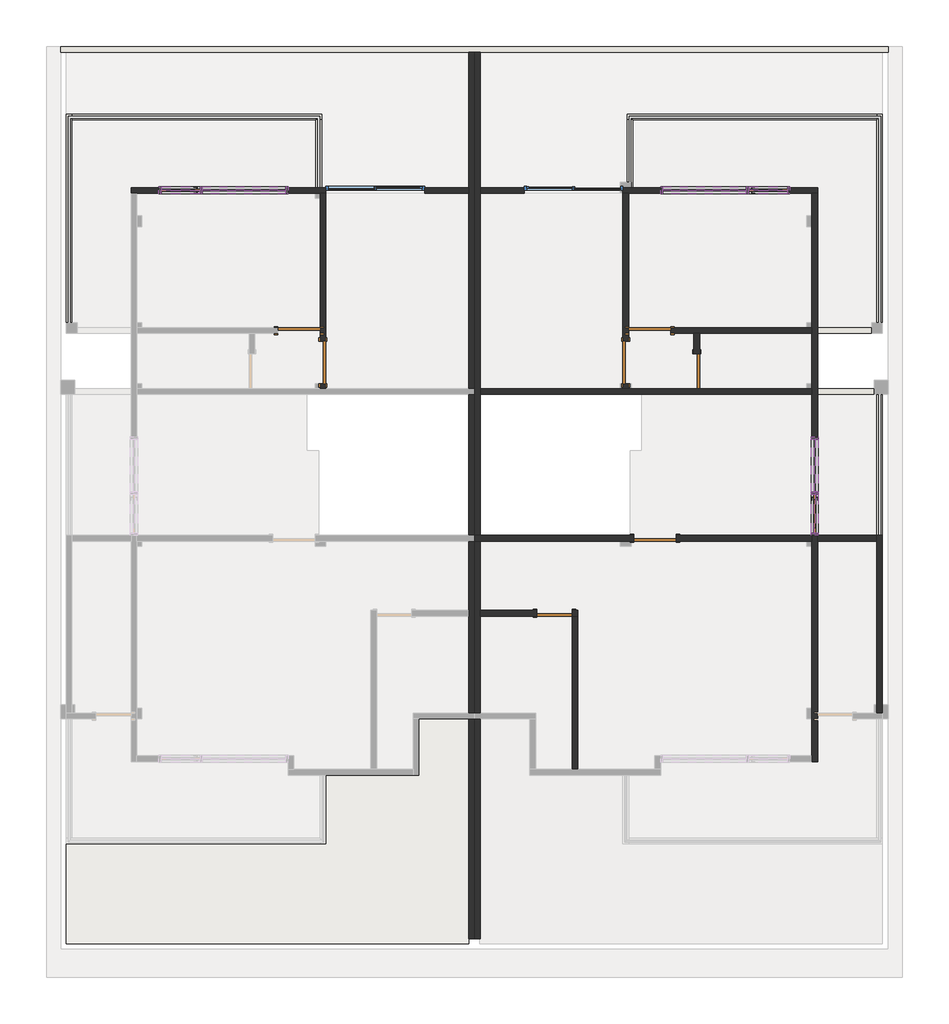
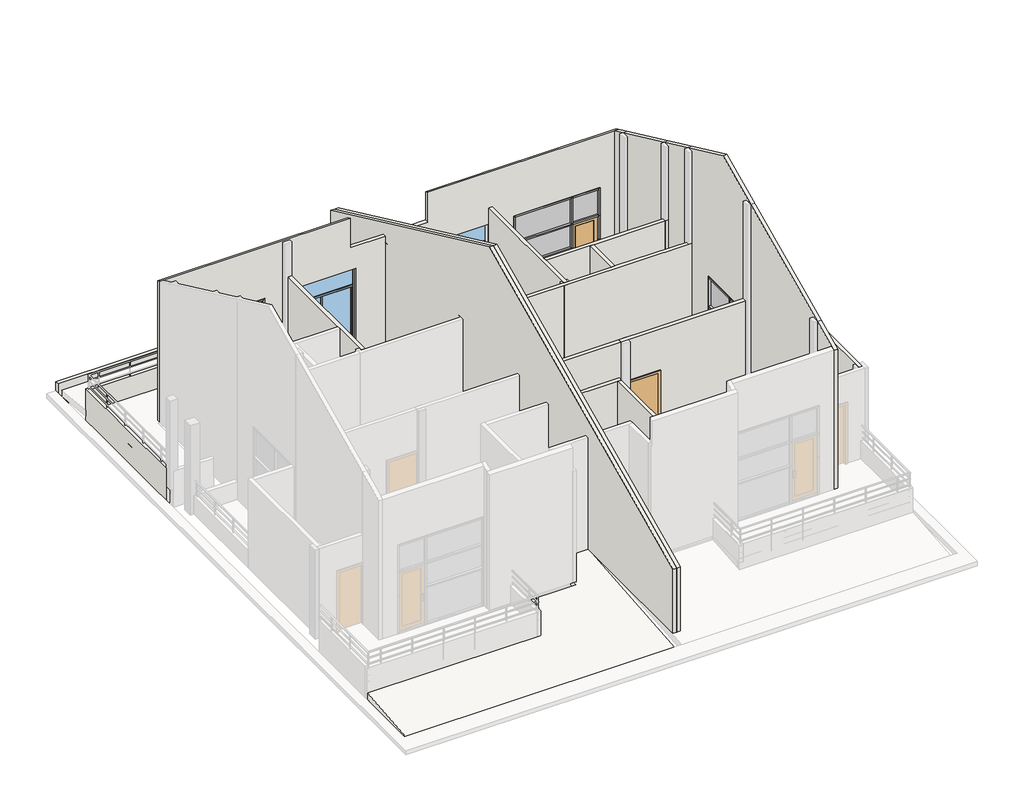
# One storey, part 2 of 6: 44 members, 25 walls, 11 plates, 10 doors, 2 windows, 1 roof.
"""IFC4 building model written with IfcOpenShell, lengths in millimetres."""

from ifc_helpers import new_model, si_unit, frame, origin, place, context, project, spatial, polyline, outline, extrude, faceted_brep, transform, mapped, element, save
from components import m1_9b42acbb, m1_203bd3fe, m3_b9aba31e, m3_11f5f102, mlc4_63d6f031, mlc4_8405c642, mlc5_12f04068, member_50_x_150mm_d1afb885, member_50_x_150mm_4883e7f1, member_50_x_150mm_9c26cac3, member_50_x_150mm_dc49d761, member_50_x_150mm_ee2168e0, member_50_x_150mm_479bf81d, member_50_x_150mm_3493d22a, member_50_x_150mm_14f10ac7, member_50_x_150mm_886af683, member_50_x_150mm_6ffebc0f, member_50_x_150mm_60451361, member_50_x_150mm_3a148f0f, member_50_x_150mm_f0098caa, member_50_x_150mm_bbc1c4ea, member_50_x_150mm_eeb88b28, member_50_x_150mm_aa47fe12, plate_036381eb, plate_f968a0e6, plate_c850eb1c, plate_985eec47, plate_60d2a096, plate_dccf6ea0, plate_e95abe67, c3_d9d63924, c3_66c74352

model = new_model("IFC4")

# Units and contexts
model_context = context("Model", 3, world=origin())
ifc_project = project(units=[si_unit("LENGTHUNIT", "METRE", prefix="MILLI")], contexts=[model_context])

# Site, building, storey
site = spatial("IfcSite", under=ifc_project)
building = spatial("IfcBuilding", under=site)
storey = spatial("IfcBuildingStorey", under=building, Name="标高 2", Elevation=3900.0)

# Doors
placement = place(None, origin())
m1_shape = m1_9b42acbb(model_context)
element("IfcDoor", 1, ObjectType="单扇 - 与墙齐 : M1", at=placement, inside=storey, context=model_context, shape_type="MappedRepresentation", body=[
    mapped(m1_shape, transform((-2875.3991115, 7931.4406182, 3900.0), x_axis=(1.0, 0.0, 0.0), y_axis=(0.0, 1.0, 0.0), z_axis=(0.0, 0.0, 1.0))),
])
element("IfcDoor", 2, ObjectType="单扇 - 与墙齐 : M1", at=placement, inside=storey, context=model_context, shape_type="MappedRepresentation", body=[
    mapped(m1_shape, transform((-2365.3991115, 7251.4406182, 3900.0), x_axis=(0.0, -1.0, 0.0), y_axis=(1.0, 0.0, 0.0), z_axis=(0.0, 0.0, 1.0))),
])
element("IfcDoor", 3, ObjectType="单扇 - 与墙齐 : M1", at=placement, inside=storey, context=model_context, shape_type="MappedRepresentation", body=[
    mapped(m1_shape, transform((4694.6008885, 3511.4406182, 3900.0), x_axis=(-1.0, 0.0, 0.0), y_axis=(0.0, -1.0, 0.0), z_axis=(0.0, 0.0, 1.0))),
])
m1_2_shape = m1_203bd3fe(model_context)
element("IfcDoor", 4, ObjectType="单扇 - 与墙齐 : M1", at=placement, inside=storey, context=model_context, shape_type="MappedRepresentation", body=[
    mapped(m1_2_shape, transform((4584.6008885, 7931.4406182, 3900.0), x_axis=(-1.0, 0.0, 0.0), y_axis=(0.0, -1.0, 0.0), z_axis=(0.0, 0.0, 1.0))),
])
element("IfcDoor", 5, ObjectType="单扇 - 与墙齐 : M1", at=placement, inside=storey, context=model_context, shape_type="MappedRepresentation", body=[
    mapped(m1_2_shape, transform((4074.6008885, 7251.4406182, 3900.0), x_axis=(0.0, -1.0, 0.0), y_axis=(1.0, 0.0, 0.0), z_axis=(0.0, 0.0, 1.0))),
])
m3_shape = m3_b9aba31e(model_context)
element("IfcDoor", 6, ObjectType="单扇 - 与墙齐 : M3", at=placement, inside=storey, context=model_context, shape_type="MappedRepresentation", body=[
    mapped(m3_shape, transform((5584.6008885, 7066.4406182, 3900.0), x_axis=(0.0, -1.0, 0.0), y_axis=(1.0, 0.0, 0.0), z_axis=(0.0, 0.0, 1.0))),
])
m3_2_shape = m3_11f5f102(model_context)
element("IfcDoor", 7, ObjectType="单扇 - 与墙齐 : M3", at=placement, inside=storey, context=model_context, shape_type="MappedRepresentation", body=[
    mapped(m3_2_shape, transform((2559.6008885, 1916.4406182, 3900.0), x_axis=(1.0, 0.0, 0.0), y_axis=(0.0, 1.0, 0.0), z_axis=(0.0, 0.0, 1.0))),
])
mlc4_shape = mlc4_63d6f031(model_context)
element("IfcDoor", 8, ObjectType="门嵌板_单开门2 : MLC4", at=placement, inside=storey, context=model_context, shape_type="MappedRepresentation", body=[
    mapped(mlc4_shape, transform((-5392.8991115, 10911.4406182, 3950.0), x_axis=(-1.0, 0.0, 0.0), y_axis=(0.0, -1.0, 0.0), z_axis=(0.0, 0.0, 1.0))),
])
mlc4_2_shape = mlc4_8405c642(model_context)
element("IfcDoor", 9, ObjectType="门嵌板_单开门2 : MLC4", at=placement, inside=storey, context=model_context, shape_type="MappedRepresentation", body=[
    mapped(mlc4_2_shape, transform((7102.1008885, 10911.4406182, 3950.0), x_axis=(1.0, 0.0, 0.0), y_axis=(0.0, 1.0, 0.0), z_axis=(0.0, 0.0, 1.0))),
])
mlc5_shape = mlc5_12f04068(model_context)
element("IfcDoor", 10, ObjectType="门嵌板_单开门2 : MLC5", at=placement, inside=storey, context=model_context, shape_type="MappedRepresentation", body=[
    mapped(mlc5_shape, transform((8094.6008885, 4033.9406182, 3950.0), x_axis=(0.0, -1.0, 0.0), y_axis=(1.0, 0.0, 0.0), z_axis=(0.0, 0.0, 1.0))),
])

# Members
member_50_x_150mm_shape = member_50_x_150mm_d1afb885(model_context)
element("IfcMember", 11, ObjectType="矩形竖梃 : 50 x 150mm", at=placement, inside=storey, context=model_context, shape_type="MappedRepresentation", body=[
    mapped(member_50_x_150mm_shape, transform((-3155.3991115, 10911.4406182, 6900.0), x_axis=(0.0, 0.0, 1.0), y_axis=(0.0, -1.0, 0.0), z_axis=(1.0, 0.0, 0.0))),
])
member_50_x_150mm_2_shape = member_50_x_150mm_4883e7f1(model_context)
element("IfcMember", 12, ObjectType="矩形竖梃 : 50 x 150mm", at=placement, inside=storey, context=model_context, shape_type="MappedRepresentation", body=[
    mapped(member_50_x_150mm_2_shape, transform((-5805.3991115, 10911.4406182, 3900.0), x_axis=(0.0, 0.0, -1.0), y_axis=(0.0, -1.0, 0.0), z_axis=(-1.0, 0.0, 0.0))),
])
member_50_x_150mm_3_shape = member_50_x_150mm_9c26cac3(model_context)
element("IfcMember", 13, ObjectType="矩形竖梃 : 50 x 150mm", at=placement, inside=storey, context=model_context, shape_type="MappedRepresentation", body=[
    mapped(member_50_x_150mm_3_shape, transform((-4980.3991115, 10911.4406182, 5976.0), x_axis=(0.0, 0.0, 1.0), y_axis=(0.0, -1.0, 0.0), z_axis=(1.0, 0.0, 0.0))),
])
member_50_x_150mm_4_shape = member_50_x_150mm_dc49d761(model_context)
element("IfcMember", 14, ObjectType="矩形竖梃 : 50 x 150mm", at=placement, inside=storey, context=model_context, shape_type="MappedRepresentation", body=[
    mapped(member_50_x_150mm_4_shape, transform((-3155.3991115, 10911.4406182, 5976.0), x_axis=(0.0, 0.0, 1.0), y_axis=(0.0, -1.0, 0.0), z_axis=(1.0, 0.0, 0.0))),
])
element("IfcMember", 15, ObjectType="矩形竖梃 : 50 x 150mm", at=placement, inside=storey, context=model_context, shape_type="MappedRepresentation", body=[
    mapped(member_50_x_150mm_4_shape, transform((-3155.3991115, 10911.4406182, 5176.0), x_axis=(0.0, 0.0, 1.0), y_axis=(0.0, -1.0, 0.0), z_axis=(1.0, 0.0, 0.0))),
])
element("IfcMember", 16, ObjectType="矩形竖梃 : 50 x 150mm", at=placement, inside=storey, context=model_context, shape_type="MappedRepresentation", body=[
    mapped(member_50_x_150mm_shape, transform((-4930.3991115, 10911.4406182, 3900.0), x_axis=(0.0, 0.0, -1.0), y_axis=(0.0, -1.0, 0.0), z_axis=(-1.0, 0.0, 0.0))),
])
element("IfcMember", 17, ObjectType="矩形竖梃 : 50 x 150mm", at=placement, inside=storey, context=model_context, shape_type="MappedRepresentation", body=[
    mapped(member_50_x_150mm_2_shape, transform((-4980.3991115, 10911.4406182, 6900.0), x_axis=(0.0, 0.0, 1.0), y_axis=(0.0, -1.0, 0.0), z_axis=(1.0, 0.0, 0.0))),
])
member_50_x_150mm_5_shape = member_50_x_150mm_ee2168e0(model_context)
element("IfcMember", 18, ObjectType="矩形竖梃 : 50 x 150mm", at=placement, inside=storey, context=model_context, shape_type="MappedRepresentation", body=[
    mapped(member_50_x_150mm_5_shape, transform((-4955.3991115, 10911.4406182, 5976.0), x_axis=(1.0, 0.0, 0.0), y_axis=(0.0, -1.0, 0.0), z_axis=(0.0, 0.0, -1.0))),
])
member_50_x_150mm_6_shape = member_50_x_150mm_479bf81d(model_context)
element("IfcMember", 19, ObjectType="矩形竖梃 : 50 x 150mm", at=placement, inside=storey, context=model_context, shape_type="MappedRepresentation", body=[
    mapped(member_50_x_150mm_6_shape, transform((-5855.3991115, 10911.4406182, 6900.0), x_axis=(-1.0, 0.0, 0.0), y_axis=(0.0, -1.0, 0.0), z_axis=(0.0, 0.0, 1.0))),
])
element("IfcMember", 20, ObjectType="矩形竖梃 : 50 x 150mm", at=placement, inside=storey, context=model_context, shape_type="MappedRepresentation", body=[
    mapped(member_50_x_150mm_6_shape, transform((-3105.3991115, 10911.4406182, 5976.0), x_axis=(1.0, 0.0, 0.0), y_axis=(0.0, -1.0, 0.0), z_axis=(0.0, 0.0, -1.0))),
])
member_50_x_150mm_7_shape = member_50_x_150mm_3493d22a(model_context)
element("IfcMember", 21, ObjectType="矩形竖梃 : 50 x 150mm", at=placement, inside=storey, context=model_context, shape_type="MappedRepresentation", body=[
    mapped(member_50_x_150mm_7_shape, transform((-4955.3991115, 10911.4406182, 3900.0), x_axis=(1.0, 0.0, 0.0), y_axis=(0.0, -1.0, 0.0), z_axis=(0.0, 0.0, -1.0))),
])
member_50_x_150mm_8_shape = member_50_x_150mm_14f10ac7(model_context)
element("IfcMember", 22, ObjectType="矩形竖梃 : 50 x 150mm", at=placement, inside=storey, context=model_context, shape_type="MappedRepresentation", body=[
    mapped(member_50_x_150mm_8_shape, transform((-4955.3991115, 10911.4406182, 5176.0), x_axis=(1.0, 0.0, 0.0), y_axis=(0.0, -1.0, 0.0), z_axis=(0.0, 0.0, -1.0))),
])
member_50_x_150mm_9_shape = member_50_x_150mm_886af683(model_context)
element("IfcMember", 23, ObjectType="矩形竖梃 : 50 x 150mm", at=placement, inside=storey, context=model_context, shape_type="MappedRepresentation", body=[
    mapped(member_50_x_150mm_9_shape, transform((-3105.3991115, 10911.4406182, 3900.0), x_axis=(1.0, 0.0, 0.0), y_axis=(0.0, -1.0, 0.0), z_axis=(0.0, 0.0, -1.0))),
])
member_50_x_150mm_10_shape = member_50_x_150mm_6ffebc0f(model_context)
element("IfcMember", 24, ObjectType="矩形竖梃 : 50 x 150mm", at=placement, inside=storey, context=model_context, shape_type="MappedRepresentation", body=[
    mapped(member_50_x_150mm_10_shape, transform((-3105.3991115, 10911.4406182, 5176.0), x_axis=(1.0, 0.0, 0.0), y_axis=(0.0, -1.0, 0.0), z_axis=(0.0, 0.0, -1.0))),
])
element("IfcMember", 25, ObjectType="矩形竖梃 : 50 x 150mm", at=placement, inside=storey, context=model_context, shape_type="MappedRepresentation", body=[
    mapped(member_50_x_150mm_10_shape, transform((-5855.3991115, 10911.4406182, 5976.0), x_axis=(-1.0, 0.0, 0.0), y_axis=(0.0, -1.0, 0.0), z_axis=(0.0, 0.0, 1.0))),
])
element("IfcMember", 26, ObjectType="矩形竖梃 : 50 x 150mm", at=placement, inside=storey, context=model_context, shape_type="MappedRepresentation", body=[
    mapped(member_50_x_150mm_9_shape, transform((-5855.3991115, 10911.4406182, 5176.0), x_axis=(-1.0, 0.0, 0.0), y_axis=(0.0, -1.0, 0.0), z_axis=(0.0, 0.0, 1.0))),
])
element("IfcMember", 27, ObjectType="矩形竖梃 : 50 x 150mm", at=placement, inside=storey, context=model_context, shape_type="MappedRepresentation", body=[
    mapped(member_50_x_150mm_shape, transform((4864.6008885, 10911.4406182, 6900.0), x_axis=(0.0, 0.0, 1.0), y_axis=(0.0, 1.0, 0.0), z_axis=(-1.0, 0.0, 0.0))),
])
element("IfcMember", 28, ObjectType="矩形竖梃 : 50 x 150mm", at=placement, inside=storey, context=model_context, shape_type="MappedRepresentation", body=[
    mapped(member_50_x_150mm_2_shape, transform((7514.6008885, 10911.4406182, 3900.0), x_axis=(0.0, 0.0, -1.0), y_axis=(0.0, 1.0, 0.0), z_axis=(1.0, 0.0, 0.0))),
])
element("IfcMember", 29, ObjectType="矩形竖梃 : 50 x 150mm", at=placement, inside=storey, context=model_context, shape_type="MappedRepresentation", body=[
    mapped(member_50_x_150mm_2_shape, transform((8094.6008885, 3621.4406182, 3900.0), x_axis=(0.0, 0.0, -1.0), y_axis=(1.0, 0.0, 0.0), z_axis=(0.0, -1.0, 0.0))),
])
element("IfcMember", 30, ObjectType="矩形竖梃 : 50 x 150mm", at=placement, inside=storey, context=model_context, shape_type="MappedRepresentation", body=[
    mapped(member_50_x_150mm_7_shape, transform((6664.6008885, 10911.4406182, 3900.0), x_axis=(-1.0, 0.0, 0.0), y_axis=(0.0, 1.0, 0.0), z_axis=(0.0, 0.0, -1.0))),
])
element("IfcMember", 31, ObjectType="矩形竖梃 : 50 x 150mm", at=placement, inside=storey, context=model_context, shape_type="MappedRepresentation", body=[
    mapped(member_50_x_150mm_3_shape, transform((6689.6008885, 10911.4406182, 5976.0), x_axis=(0.0, 0.0, 1.0), y_axis=(0.0, 1.0, 0.0), z_axis=(-1.0, 0.0, 0.0))),
])
element("IfcMember", 32, ObjectType="矩形竖梃 : 50 x 150mm", at=placement, inside=storey, context=model_context, shape_type="MappedRepresentation", body=[
    mapped(member_50_x_150mm_3_shape, transform((8094.6008885, 4446.4406182, 5900.0), x_axis=(0.0, 0.0, 1.0), y_axis=(1.0, 0.0, 0.0), z_axis=(0.0, 1.0, 0.0))),
])
element("IfcMember", 33, ObjectType="矩形竖梃 : 50 x 150mm", at=placement, inside=storey, context=model_context, shape_type="MappedRepresentation", body=[
    mapped(member_50_x_150mm_4_shape, transform((4864.6008885, 10911.4406182, 5976.0), x_axis=(0.0, 0.0, 1.0), y_axis=(0.0, 1.0, 0.0), z_axis=(-1.0, 0.0, 0.0))),
])
element("IfcMember", 34, ObjectType="矩形竖梃 : 50 x 150mm", at=placement, inside=storey, context=model_context, shape_type="MappedRepresentation", body=[
    mapped(member_50_x_150mm_4_shape, transform((4864.6008885, 10911.4406182, 5176.0), x_axis=(0.0, 0.0, 1.0), y_axis=(0.0, 1.0, 0.0), z_axis=(-1.0, 0.0, 0.0))),
])
element("IfcMember", 35, ObjectType="矩形竖梃 : 50 x 150mm", at=placement, inside=storey, context=model_context, shape_type="MappedRepresentation", body=[
    mapped(member_50_x_150mm_shape, transform((6639.6008885, 10911.4406182, 3900.0), x_axis=(0.0, 0.0, -1.0), y_axis=(0.0, 1.0, 0.0), z_axis=(1.0, 0.0, 0.0))),
])
element("IfcMember", 36, ObjectType="矩形竖梃 : 50 x 150mm", at=placement, inside=storey, context=model_context, shape_type="MappedRepresentation", body=[
    mapped(member_50_x_150mm_2_shape, transform((6689.6008885, 10911.4406182, 6900.0), x_axis=(0.0, 0.0, 1.0), y_axis=(0.0, 1.0, 0.0), z_axis=(-1.0, 0.0, 0.0))),
])
element("IfcMember", 37, ObjectType="矩形竖梃 : 50 x 150mm", at=placement, inside=storey, context=model_context, shape_type="MappedRepresentation", body=[
    mapped(member_50_x_150mm_2_shape, transform((8094.6008885, 4446.4406182, 6900.0), x_axis=(0.0, 0.0, 1.0), y_axis=(1.0, 0.0, 0.0), z_axis=(0.0, 1.0, 0.0))),
])
element("IfcMember", 38, ObjectType="矩形竖梃 : 50 x 150mm", at=placement, inside=storey, context=model_context, shape_type="MappedRepresentation", body=[
    mapped(member_50_x_150mm_5_shape, transform((6664.6008885, 10911.4406182, 5976.0), x_axis=(-1.0, 0.0, 0.0), y_axis=(0.0, 1.0, 0.0), z_axis=(0.0, 0.0, -1.0))),
])
element("IfcMember", 39, ObjectType="矩形竖梃 : 50 x 150mm", at=placement, inside=storey, context=model_context, shape_type="MappedRepresentation", body=[
    mapped(member_50_x_150mm_8_shape, transform((6664.6008885, 10911.4406182, 5176.0), x_axis=(-1.0, 0.0, 0.0), y_axis=(0.0, 1.0, 0.0), z_axis=(0.0, 0.0, -1.0))),
])
element("IfcMember", 40, ObjectType="矩形竖梃 : 50 x 150mm", at=placement, inside=storey, context=model_context, shape_type="MappedRepresentation", body=[
    mapped(member_50_x_150mm_6_shape, transform((7564.6008885, 10911.4406182, 6900.0), x_axis=(1.0, 0.0, 0.0), y_axis=(0.0, 1.0, 0.0), z_axis=(0.0, 0.0, 1.0))),
])
element("IfcMember", 41, ObjectType="矩形竖梃 : 50 x 150mm", at=placement, inside=storey, context=model_context, shape_type="MappedRepresentation", body=[
    mapped(member_50_x_150mm_9_shape, transform((4814.6008885, 10911.4406182, 3900.0), x_axis=(-1.0, 0.0, 0.0), y_axis=(0.0, 1.0, 0.0), z_axis=(0.0, 0.0, -1.0))),
])
element("IfcMember", 42, ObjectType="矩形竖梃 : 50 x 150mm", at=placement, inside=storey, context=model_context, shape_type="MappedRepresentation", body=[
    mapped(member_50_x_150mm_6_shape, transform((4814.6008885, 10911.4406182, 5976.0), x_axis=(-1.0, 0.0, 0.0), y_axis=(0.0, 1.0, 0.0), z_axis=(0.0, 0.0, -1.0))),
])
element("IfcMember", 43, ObjectType="矩形竖梃 : 50 x 150mm", at=placement, inside=storey, context=model_context, shape_type="MappedRepresentation", body=[
    mapped(member_50_x_150mm_10_shape, transform((7564.6008885, 10911.4406182, 5976.0), x_axis=(1.0, 0.0, 0.0), y_axis=(0.0, 1.0, 0.0), z_axis=(0.0, 0.0, 1.0))),
])
element("IfcMember", 44, ObjectType="矩形竖梃 : 50 x 150mm", at=placement, inside=storey, context=model_context, shape_type="MappedRepresentation", body=[
    mapped(member_50_x_150mm_10_shape, transform((4814.6008885, 10911.4406182, 5176.0), x_axis=(-1.0, 0.0, 0.0), y_axis=(0.0, 1.0, 0.0), z_axis=(0.0, 0.0, -1.0))),
])
element("IfcMember", 45, ObjectType="矩形竖梃 : 50 x 150mm", at=placement, inside=storey, context=model_context, shape_type="MappedRepresentation", body=[
    mapped(member_50_x_150mm_9_shape, transform((7564.6008885, 10911.4406182, 5176.0), x_axis=(1.0, 0.0, 0.0), y_axis=(0.0, 1.0, 0.0), z_axis=(0.0, 0.0, 1.0))),
])
member_50_x_150mm_11_shape = member_50_x_150mm_60451361(model_context)
element("IfcMember", 46, ObjectType="矩形竖梃 : 50 x 150mm", at=placement, inside=storey, context=model_context, shape_type="MappedRepresentation", body=[
    mapped(member_50_x_150mm_11_shape, transform((8094.6008885, 5621.4406182, 6900.0), x_axis=(0.0, 0.0, 1.0), y_axis=(1.0, 0.0, 0.0), z_axis=(0.0, 1.0, 0.0))),
])
member_50_x_150mm_12_shape = member_50_x_150mm_3a148f0f(model_context)
element("IfcMember", 47, ObjectType="矩形竖梃 : 50 x 150mm", at=placement, inside=storey, context=model_context, shape_type="MappedRepresentation", body=[
    mapped(member_50_x_150mm_12_shape, transform((8094.6008885, 4471.4406182, 3900.0), x_axis=(0.0, 1.0, 0.0), y_axis=(1.0, 0.0, 0.0), z_axis=(0.0, 0.0, -1.0))),
])
member_50_x_150mm_13_shape = member_50_x_150mm_f0098caa(model_context)
element("IfcMember", 48, ObjectType="矩形竖梃 : 50 x 150mm", at=placement, inside=storey, context=model_context, shape_type="MappedRepresentation", body=[
    mapped(member_50_x_150mm_13_shape, transform((8094.6008885, 5621.4406182, 5900.0), x_axis=(0.0, 0.0, 1.0), y_axis=(1.0, 0.0, 0.0), z_axis=(0.0, 1.0, 0.0))),
])
element("IfcMember", 49, ObjectType="矩形竖梃 : 50 x 150mm", at=placement, inside=storey, context=model_context, shape_type="MappedRepresentation", body=[
    mapped(member_50_x_150mm_11_shape, transform((8094.6008885, 4496.4406182, 3900.0), x_axis=(0.0, 0.0, -1.0), y_axis=(1.0, 0.0, 0.0), z_axis=(0.0, -1.0, 0.0))),
])
member_50_x_150mm_14_shape = member_50_x_150mm_bbc1c4ea(model_context)
element("IfcMember", 50, ObjectType="矩形竖梃 : 50 x 150mm", at=placement, inside=storey, context=model_context, shape_type="MappedRepresentation", body=[
    mapped(member_50_x_150mm_14_shape, transform((8094.6008885, 4471.4406182, 5900.0), x_axis=(0.0, 1.0, 0.0), y_axis=(1.0, 0.0, 0.0), z_axis=(0.0, 0.0, -1.0))),
])
member_50_x_150mm_15_shape = member_50_x_150mm_eeb88b28(model_context)
element("IfcMember", 51, ObjectType="矩形竖梃 : 50 x 150mm", at=placement, inside=storey, context=model_context, shape_type="MappedRepresentation", body=[
    mapped(member_50_x_150mm_15_shape, transform((8094.6008885, 3571.4406182, 6900.0), x_axis=(0.0, -1.0, 0.0), y_axis=(1.0, 0.0, 0.0), z_axis=(0.0, 0.0, 1.0))),
])
member_50_x_150mm_16_shape = member_50_x_150mm_aa47fe12(model_context)
element("IfcMember", 52, ObjectType="矩形竖梃 : 50 x 150mm", at=placement, inside=storey, context=model_context, shape_type="MappedRepresentation", body=[
    mapped(member_50_x_150mm_16_shape, transform((8094.6008885, 5671.4406182, 3900.0), x_axis=(0.0, 1.0, 0.0), y_axis=(1.0, 0.0, 0.0), z_axis=(0.0, 0.0, -1.0))),
])
element("IfcMember", 53, ObjectType="矩形竖梃 : 50 x 150mm", at=placement, inside=storey, context=model_context, shape_type="MappedRepresentation", body=[
    mapped(member_50_x_150mm_15_shape, transform((8094.6008885, 5671.4406182, 5900.0), x_axis=(0.0, 1.0, 0.0), y_axis=(1.0, 0.0, 0.0), z_axis=(0.0, 0.0, -1.0))),
])
element("IfcMember", 54, ObjectType="矩形竖梃 : 50 x 150mm", at=placement, inside=storey, context=model_context, shape_type="MappedRepresentation", body=[
    mapped(member_50_x_150mm_16_shape, transform((8094.6008885, 3571.4406182, 5900.0), x_axis=(0.0, -1.0, 0.0), y_axis=(1.0, 0.0, 0.0), z_axis=(0.0, 0.0, 1.0))),
])

# Plates
plate_shape = plate_036381eb(model_context)
element("IfcPlate", 55, ObjectType="系统嵌板 : 玻璃", at=placement, inside=storey, context=model_context, shape_type="MappedRepresentation", body=[
    mapped(plate_shape, transform((-5392.8991115, 10911.4406182, 6001.0), x_axis=(1.0, 0.0, 0.0), y_axis=(0.0, 1.0, 0.0), z_axis=(0.0, 0.0, 1.0))),
])
plate_2_shape = plate_f968a0e6(model_context)
element("IfcPlate", 56, ObjectType="系统嵌板 : 玻璃", at=placement, inside=storey, context=model_context, shape_type="MappedRepresentation", body=[
    mapped(plate_2_shape, transform((-4042.8991115, 10911.4406182, 6001.0), x_axis=(1.0, 0.0, 0.0), y_axis=(0.0, 1.0, 0.0), z_axis=(0.0, 0.0, 1.0))),
])
plate_3_shape = plate_c850eb1c(model_context)
element("IfcPlate", 57, ObjectType="系统嵌板 : 玻璃", at=placement, inside=storey, context=model_context, shape_type="MappedRepresentation", body=[
    mapped(plate_3_shape, transform((-4042.8991115, 10911.4406182, 3950.0), x_axis=(1.0, 0.0, 0.0), y_axis=(0.0, 1.0, 0.0), z_axis=(0.0, 0.0, 1.0))),
])
plate_4_shape = plate_985eec47(model_context)
element("IfcPlate", 58, ObjectType="系统嵌板 : 玻璃", at=placement, inside=storey, context=model_context, shape_type="MappedRepresentation", body=[
    mapped(plate_4_shape, transform((-4042.8991115, 10911.4406182, 5201.0), x_axis=(1.0, 0.0, 0.0), y_axis=(0.0, 1.0, 0.0), z_axis=(0.0, 0.0, 1.0))),
])
element("IfcPlate", 59, ObjectType="系统嵌板 : 玻璃", at=placement, inside=storey, context=model_context, shape_type="MappedRepresentation", body=[
    mapped(plate_3_shape, transform((5752.1008885, 10911.4406182, 3950.0), x_axis=(-1.0, 0.0, 0.0), y_axis=(0.0, -1.0, 0.0), z_axis=(0.0, 0.0, 1.0))),
])
element("IfcPlate", 60, ObjectType="系统嵌板 : 玻璃", at=placement, inside=storey, context=model_context, shape_type="MappedRepresentation", body=[
    mapped(plate_shape, transform((7102.1008885, 10911.4406182, 6001.0), x_axis=(-1.0, 0.0, 0.0), y_axis=(0.0, -1.0, 0.0), z_axis=(0.0, 0.0, 1.0))),
])
element("IfcPlate", 61, ObjectType="系统嵌板 : 玻璃", at=placement, inside=storey, context=model_context, shape_type="MappedRepresentation", body=[
    mapped(plate_2_shape, transform((5752.1008885, 10911.4406182, 6001.0), x_axis=(-1.0, 0.0, 0.0), y_axis=(0.0, -1.0, 0.0), z_axis=(0.0, 0.0, 1.0))),
])
element("IfcPlate", 62, ObjectType="系统嵌板 : 玻璃", at=placement, inside=storey, context=model_context, shape_type="MappedRepresentation", body=[
    mapped(plate_4_shape, transform((5752.1008885, 10911.4406182, 5201.0), x_axis=(-1.0, 0.0, 0.0), y_axis=(0.0, -1.0, 0.0), z_axis=(0.0, 0.0, 1.0))),
])
plate_5_shape = plate_60d2a096(model_context)
element("IfcPlate", 63, ObjectType="系统嵌板 : 玻璃", at=placement, inside=storey, context=model_context, shape_type="MappedRepresentation", body=[
    mapped(plate_5_shape, transform((8094.6008885, 5058.9406182, 3950.0), x_axis=(0.0, 1.0, 0.0), y_axis=(-1.0, 0.0, 0.0), z_axis=(0.0, 0.0, 1.0))),
])
plate_6_shape = plate_dccf6ea0(model_context)
element("IfcPlate", 64, ObjectType="系统嵌板 : 玻璃", at=placement, inside=storey, context=model_context, shape_type="MappedRepresentation", body=[
    mapped(plate_6_shape, transform((8094.6008885, 4033.9406182, 5925.0), x_axis=(0.0, 1.0, 0.0), y_axis=(-1.0, 0.0, 0.0), z_axis=(0.0, 0.0, 1.0))),
])
plate_7_shape = plate_e95abe67(model_context)
element("IfcPlate", 65, ObjectType="系统嵌板 : 玻璃", at=placement, inside=storey, context=model_context, shape_type="MappedRepresentation", body=[
    mapped(plate_7_shape, transform((8094.6008885, 5058.9406182, 5925.0), x_axis=(0.0, 1.0, 0.0), y_axis=(-1.0, 0.0, 0.0), z_axis=(0.0, 0.0, 1.0))),
])

# Roof
element("IfcRoof", 66, ObjectType="平屋顶200", at=placement, inside=storey, context=model_context, shape_type="Brep", body=[
    faceted_brep([(739.6008885, -328.5593818, 3699.2360325), (739.6008885, -5108.5593818, 3281.0402208), (-7825.3991115, -5108.5593818, 3281.0402208), (-7825.3991115, -2988.5593818, 3466.5161875), (-2305.3991115, -2988.5593818, 3466.5161875), (-2305.3991115, -1523.5593818, 3594.6870796), (-325.3991115, -1523.5593818, 3594.6870796), (-325.3991115, -328.5593818, 3699.2360325), (739.6008885, -5108.5593818, 3481.8041883), (739.6008885, -328.5593818, 3900.0), (-325.3991115, -328.5593818, 3900.0), (-325.3991115, -1523.5593818, 3795.4510471), (-2305.3991115, -1523.5593818, 3795.4510471), (-2305.3991115, -2988.5593818, 3667.280155), (-7825.3991115, -2988.5593818, 3667.280155), (-7825.3991115, -5108.5593818, 3481.8041883)], [[[0, 1, 2, 3, 4, 5, 6, 7]], [[8, 9, 10, 11, 12, 13, 14, 15]], [[9, 0, 7, 10]], [[1, 0, 9, 8]], [[2, 1, 8, 15]], [[2, 15, 14, 3]], [[13, 4, 3, 14]], [[4, 13, 12, 5]], [[5, 12, 11, 6]], [[6, 11, 10, 7]]]),
])

# Walls
element("IfcWall", 67, ObjectType="考试墙体120", at=placement, inside=storey, context=model_context, shape_type="Brep", body=[
    faceted_brep([(-6445.3991115, 10851.4406182, 8645.1424123), (-6445.3991115, 10851.4406182, 3900.0), (-6325.3991115, 10851.4406182, 3900.0), (-5855.3991115, 10851.4406182, 3900.0), (-5855.3991115, 10851.4406182, 6900.0), (-3105.3991115, 10851.4406182, 6900.0), (-3105.3991115, 10851.4406182, 3900.0), (-2425.3991115, 10851.4406182, 3900.0), (-2305.3991115, 10851.4406182, 3900.0), (-2305.3991115, 10851.4406182, 6900.0), (-205.3991115, 10851.4406182, 6900.0), (-205.3991115, 10851.4406182, 3900.0), (734.6008885, 10851.4406182, 3900.0), (734.6008885, 10851.4406182, 7650.0), (-385.3991115, 10851.4406182, 7650.0), (-385.3991115, 10851.4406182, 8645.1424123), (-6325.3991115, 10851.4406182, 8645.1424123), (-6445.3991115, 10971.4406182, 3900.0), (-6445.3991115, 10971.4406182, 8589.1854934), (-385.3991115, 10971.4406182, 8589.1854934), (-385.3991115, 10971.4406182, 7650.0), (734.6008885, 10971.4406182, 7650.0), (734.6008885, 10971.4406182, 3900.0), (-205.3991115, 10971.4406182, 3900.0), (-205.3991115, 10971.4406182, 6900.0), (-2305.3991115, 10971.4406182, 6900.0), (-2305.3991115, 10971.4406182, 3900.0), (-3105.3991115, 10971.4406182, 3900.0), (-3105.3991115, 10971.4406182, 6900.0), (-5855.3991115, 10971.4406182, 6900.0), (-5855.3991115, 10971.4406182, 3900.0)], [[[0, 1, 2, 3, 4, 5, 6, 7, 8, 9, 10, 11, 12, 13, 14, 15, 16]], [[17, 18, 19, 20, 21, 22, 23, 24, 25, 26, 27, 28, 29, 30]], [[1, 17, 30, 3, 2]], [[12, 11, 23, 22]], [[26, 8, 7, 6, 27]], [[1, 0, 18, 17]], [[11, 10, 24, 23]], [[9, 8, 26, 25]], [[9, 25, 24, 10]], [[29, 4, 3, 30]], [[4, 29, 28, 5]], [[5, 28, 27, 6]], [[14, 13, 21, 20]], [[14, 20, 19, 15]], [[0, 16, 15, 19, 18]], [[13, 12, 22, 21]]]),
])
element("IfcWall", 68, ObjectType="考试墙体120", at=placement, inside=storey, context=model_context, shape_type="Brep", body=[
    faceted_brep([(-2305.3991115, 6691.4406182, 3900.0), (-2305.3991115, 6801.4406182, 3900.0), (-2305.3991115, 6801.4406182, 6000.0), (-2305.3991115, 7701.4406182, 6000.0), (-2305.3991115, 7701.4406182, 3900.0), (-2305.3991115, 10851.4406182, 3900.0), (-2305.3991115, 10851.4406182, 6900.0), (-2305.3991115, 10851.4406182, 7450.0), (-2305.3991115, 6691.4406182, 7450.0), (-2425.3991115, 6801.4406182, 6000.0), (-2425.3991115, 6801.4406182, 3900.0), (-2425.3991115, 6691.4406182, 3900.0), (-2425.3991115, 6691.4406182, 7450.0), (-2425.3991115, 7871.4406182, 7450.0), (-2425.3991115, 7991.4406182, 7450.0), (-2425.3991115, 10851.4406182, 7450.0), (-2425.3991115, 10851.4406182, 3900.0), (-2425.3991115, 7701.4406182, 3900.0), (-2425.3991115, 7701.4406182, 6000.0)], [[[0, 1, 2, 3, 4, 5, 6, 7, 8]], [[9, 10, 11, 12, 13, 14, 15, 16, 17, 18]], [[17, 16, 5, 4]], [[11, 10, 1, 0]], [[7, 6, 5, 16, 15]], [[0, 8, 12, 11]], [[2, 1, 10, 9]], [[3, 2, 9, 18]], [[4, 3, 18, 17]], [[8, 7, 15, 14, 13, 12]]]),
])
element("IfcWall", 69, ObjectType="考试墙体120", at=placement, inside=storey, context=model_context, shape_type="Brep", body=[
    faceted_brep([(734.6008885, 13851.4406182, 3900.0), (734.6008885, 10971.4406182, 3900.0), (734.6008885, 10851.4406182, 3900.0), (734.6008885, 1976.4406182, 3900.0), (734.6008885, 1856.4406182, 3900.0), (734.6008885, -5003.5593818, 3900.0), (734.6008885, -5003.5593818, 6055.0), (734.6008885, 5112.3273397, 10772.1154473), (734.6008885, 13851.4406182, 6697.0), (854.6008885, 13851.4406182, 3900.0), (854.6008885, 13851.4406182, 6697.0), (854.6008885, 5112.3273397, 10772.1154473), (854.6008885, -5003.5593818, 6055.0), (854.6008885, -5003.5593818, 3900.0), (854.6008885, -328.5593818, 3900.0), (854.6008885, -208.5593818, 3900.0), (854.6008885, 3451.4406182, 3900.0), (854.6008885, 3571.4406182, 3900.0), (854.6008885, 6571.4406182, 3900.0), (854.6008885, 6691.4406182, 3900.0)], [[[0, 1, 2, 3, 4, 5, 6, 7, 8]], [[9, 10, 11, 12, 13, 14, 15, 16, 17, 18, 19]], [[5, 4, 3, 2, 1, 0, 9, 19, 18, 17, 16, 15, 14, 13]], [[6, 5, 13, 12]], [[0, 8, 10, 9]], [[7, 6, 12, 11]], [[8, 7, 11, 10]]]),
])
element("IfcWall", 70, ObjectType="考试墙体120", at=placement, inside=storey, context=model_context, shape_type="Brep", body=[
    faceted_brep([(854.6008885, 13851.4406182, 3900.0), (854.6008885, 6691.4406182, 3900.0), (854.6008885, 6571.4406182, 3900.0), (854.6008885, 3571.4406182, 3900.0), (854.6008885, 3451.4406182, 3900.0), (854.6008885, -208.5593818, 3900.0), (854.6008885, -328.5593818, 3900.0), (854.6008885, -5003.5593818, 3900.0), (854.6008885, -5003.5593818, 6055.0), (854.6008885, 5112.3273397, 10772.1154473), (854.6008885, 13851.4406182, 6697.0), (974.6008885, 13851.4406182, 3900.0), (974.6008885, 13851.4406182, 6697.0), (974.6008885, 5112.3273397, 10772.1154473), (974.6008885, -5003.5593818, 6055.0), (974.6008885, -5003.5593818, 3900.0), (974.6008885, 1856.4406182, 3900.0), (974.6008885, 1976.4406182, 3900.0), (974.6008885, 10851.4406182, 3900.0), (974.6008885, 10971.4406182, 3900.0)], [[[0, 1, 2, 3, 4, 5, 6, 7, 8, 9, 10]], [[11, 12, 13, 14, 15, 16, 17, 18, 19]], [[7, 6, 5, 4, 3, 2, 1, 0, 11, 19, 18, 17, 16, 15]], [[8, 7, 15, 14]], [[0, 10, 12, 11]], [[9, 8, 14, 13]], [[10, 9, 13, 12]]]),
])
element("IfcWall", 71, ObjectType="考试墙体120", at=placement, inside=storey, context=model_context, shape_type="Brep", body=[
    faceted_brep([(8154.6008885, 10971.4406182, 8589.1854934), (8154.6008885, 10971.4406182, 3900.0), (7564.6008885, 10971.4406182, 3900.0), (7564.6008885, 10971.4406182, 6900.0), (4814.6008885, 10971.4406182, 6900.0), (4814.6008885, 10971.4406182, 3900.0), (4014.6008885, 10971.4406182, 3900.0), (4014.6008885, 10971.4406182, 6900.0), (1914.6008885, 10971.4406182, 6900.0), (1914.6008885, 10971.4406182, 3900.0), (974.6008885, 10971.4406182, 3900.0), (974.6008885, 10971.4406182, 7650.0), (2094.6008885, 10971.4406182, 7650.0), (2094.6008885, 10971.4406182, 8589.1854934), (8154.6008885, 10851.4406182, 3900.0), (8154.6008885, 10851.4406182, 8645.1424123), (8034.6008885, 10851.4406182, 8645.1424123), (2094.6008885, 10851.4406182, 8645.1424123), (2094.6008885, 10851.4406182, 7650.0), (974.6008885, 10851.4406182, 7650.0), (974.6008885, 10851.4406182, 3900.0), (1914.6008885, 10851.4406182, 3900.0), (1914.6008885, 10851.4406182, 6900.0), (4014.6008885, 10851.4406182, 6900.0), (4014.6008885, 10851.4406182, 3900.0), (4134.6008885, 10851.4406182, 3900.0), (4814.6008885, 10851.4406182, 3900.0), (4814.6008885, 10851.4406182, 6900.0), (7564.6008885, 10851.4406182, 6900.0), (7564.6008885, 10851.4406182, 3900.0), (8034.6008885, 10851.4406182, 3900.0)], [[[0, 1, 2, 3, 4, 5, 6, 7, 8, 9, 10, 11, 12, 13]], [[14, 15, 16, 17, 18, 19, 20, 21, 22, 23, 24, 25, 26, 27, 28, 29, 30]], [[1, 14, 30, 29, 2]], [[10, 9, 21, 20]], [[24, 6, 5, 26, 25]], [[1, 0, 15, 14]], [[9, 8, 22, 21]], [[7, 6, 24, 23]], [[7, 23, 22, 8]], [[28, 3, 2, 29]], [[3, 28, 27, 4]], [[4, 27, 26, 5]], [[12, 11, 19, 18]], [[12, 18, 17, 13]], [[0, 13, 17, 16, 15]], [[11, 10, 20, 19]]]),
])
element("IfcWall", 72, ObjectType="考试墙体120", at=placement, inside=storey, context=model_context, shape_type="Brep", body=[
    faceted_brep([(8154.6008885, 10851.4406182, 3900.0), (8154.6008885, 10851.4406182, 8645.1424123), (8154.6008885, 4871.4406182, 11433.6622081), (8154.6008885, -1238.5593818, 8584.5224168), (8154.6008885, -1238.5593818, 3900.0), (8154.6008885, 3451.4406182, 3900.0), (8154.6008885, 3571.4406182, 3900.0), (8154.6008885, 3571.4406182, 6900.0), (8154.6008885, 5671.4406182, 6900.0), (8154.6008885, 5671.4406182, 3900.0), (8154.6008885, 6571.4406182, 3900.0), (8154.6008885, 6691.4406182, 3900.0), (8154.6008885, 7871.4406182, 3900.0), (8154.6008885, 7991.4406182, 3900.0), (8034.6008885, 10851.4406182, 8645.1424123), (8034.6008885, 10851.4406182, 3900.0), (8034.6008885, 7991.4406182, 3900.0), (8034.6008885, 7871.4406182, 3900.0), (8034.6008885, 6691.4406182, 3900.0), (8034.6008885, 6571.4406182, 3900.0), (8034.6008885, 5671.4406182, 3900.0), (8034.6008885, 5671.4406182, 6900.0), (8034.6008885, 3571.4406182, 6900.0), (8034.6008885, 3571.4406182, 3900.0), (8034.6008885, 3451.4406182, 3900.0), (8034.6008885, -1118.5593818, 3900.0), (8034.6008885, -1238.5593818, 3900.0), (8034.6008885, -1238.5593818, 8584.5224168), (8034.6008885, -1118.5593818, 8640.4793358), (8034.6008885, 4871.4406182, 11433.6622081)], [[[0, 1, 2, 3, 4, 5, 6, 7, 8, 9, 10, 11, 12, 13]], [[14, 15, 16, 17, 18, 19, 20, 21, 22, 23, 24, 25, 26, 27, 28, 29]], [[15, 0, 13, 12, 11, 10, 9, 20, 19, 18, 17, 16]], [[4, 26, 25, 24, 23, 6, 5]], [[1, 0, 15, 14]], [[4, 3, 27, 26]], [[22, 7, 6, 23]], [[7, 22, 21, 8]], [[8, 21, 20, 9]], [[27, 3, 2, 29, 28]], [[1, 14, 29, 2]]]),
])
element("IfcWall", 73, ObjectType="考试墙体120", at=placement, inside=storey, context=model_context, shape_type="Brep", body=[
    faceted_brep([(854.6008885, 6571.4406182, 3900.0), (8034.6008885, 6571.4406182, 3900.0), (8034.6008885, 6571.4406182, 7450.0), (854.6008885, 6571.4406182, 7450.0), (854.6008885, 6691.4406182, 3900.0), (854.6008885, 6691.4406182, 7450.0), (4014.6008885, 6691.4406182, 7450.0), (4134.6008885, 6691.4406182, 7450.0), (5524.6008885, 6691.4406182, 7450.0), (5644.6008885, 6691.4406182, 7450.0), (8034.6008885, 6691.4406182, 7450.0), (8034.6008885, 6691.4406182, 3900.0), (4134.6008885, 6691.4406182, 3900.0), (4014.6008885, 6691.4406182, 3900.0)], [[[0, 1, 2, 3]], [[4, 5, 6, 7, 8, 9, 10, 11, 12, 13]], [[1, 0, 4, 13, 12, 11]], [[2, 1, 11, 10]], [[0, 3, 5, 4]], [[3, 2, 10, 9, 8, 7, 6, 5]]]),
])
element("IfcWall", 74, ObjectType="考试墙体120", at=placement, inside=storey, context=model_context, shape_type="Brep", body=[
    faceted_brep([(4134.6008885, 6691.4406182, 3900.0), (4134.6008885, 6801.4406182, 3900.0), (4134.6008885, 6801.4406182, 6000.0), (4134.6008885, 7701.4406182, 6000.0), (4134.6008885, 7701.4406182, 3900.0), (4134.6008885, 10851.4406182, 3900.0), (4134.6008885, 10851.4406182, 7450.0), (4134.6008885, 7991.4406182, 7450.0), (4134.6008885, 7871.4406182, 7450.0), (4134.6008885, 6691.4406182, 7450.0), (4014.6008885, 6801.4406182, 6000.0), (4014.6008885, 6801.4406182, 3900.0), (4014.6008885, 6691.4406182, 3900.0), (4014.6008885, 6691.4406182, 7450.0), (4014.6008885, 10851.4406182, 7450.0), (4014.6008885, 10851.4406182, 6900.0), (4014.6008885, 10851.4406182, 3900.0), (4014.6008885, 7701.4406182, 3900.0), (4014.6008885, 7701.4406182, 6000.0)], [[[0, 1, 2, 3, 4, 5, 6, 7, 8, 9]], [[10, 11, 12, 13, 14, 15, 16, 17, 18]], [[17, 16, 5, 4]], [[12, 11, 1, 0]], [[6, 5, 16, 15, 14]], [[0, 9, 13, 12]], [[2, 1, 11, 10]], [[3, 2, 10, 18]], [[4, 3, 18, 17]], [[9, 8, 7, 6, 14, 13]]]),
])
element("IfcWall", 75, ObjectType="考试墙体120", at=placement, inside=storey, context=model_context, shape_type="Brep", body=[
    faceted_brep([(854.6008885, 3451.4406182, 3900.0), (4244.6008885, 3451.4406182, 3900.0), (4244.6008885, 3451.4406182, 6000.0), (5144.6008885, 3451.4406182, 6000.0), (5144.6008885, 3451.4406182, 3900.0), (8034.6008885, 3451.4406182, 3900.0), (8034.6008885, 3451.4406182, 7450.0), (854.6008885, 3451.4406182, 7450.0), (4244.6008885, 3571.4406182, 6000.0), (4244.6008885, 3571.4406182, 3900.0), (854.6008885, 3571.4406182, 3900.0), (854.6008885, 3571.4406182, 7450.0), (8034.6008885, 3571.4406182, 7450.0), (8034.6008885, 3571.4406182, 6900.0), (8034.6008885, 3571.4406182, 3900.0), (5144.6008885, 3571.4406182, 3900.0), (5144.6008885, 3571.4406182, 6000.0)], [[[0, 1, 2, 3, 4, 5, 6, 7]], [[8, 9, 10, 11, 12, 13, 14, 15, 16]], [[15, 14, 5, 4]], [[10, 9, 1, 0]], [[6, 5, 14, 13, 12]], [[2, 1, 9, 8]], [[3, 2, 8, 16]], [[4, 3, 16, 15]], [[0, 7, 11, 10]], [[7, 6, 12, 11]]]),
])
element("IfcWall", 76, ObjectType="考试墙体120", at=placement, inside=storey, context=model_context, shape_type="Brep", body=[
    faceted_brep([(974.6008885, 1976.4406182, 3900.0), (974.6008885, 1976.4406182, 7450.0), (3054.6008885, 1976.4406182, 7450.0), (3054.6008885, 1976.4406182, 3900.0), (2934.6008885, 1976.4406182, 3900.0), (2934.6008885, 1976.4406182, 5900.0), (2184.6008885, 1976.4406182, 5900.0), (2184.6008885, 1976.4406182, 3900.0), (974.6008885, 1856.4406182, 7450.0), (974.6008885, 1856.4406182, 3900.0), (2184.6008885, 1856.4406182, 3900.0), (2184.6008885, 1856.4406182, 5900.0), (2934.6008885, 1856.4406182, 5900.0), (2934.6008885, 1856.4406182, 3900.0), (3054.6008885, 1856.4406182, 3900.0), (3054.6008885, 1856.4406182, 7450.0), (2934.6008885, 1856.4406182, 7450.0)], [[[0, 1, 2, 3, 4, 5, 6, 7]], [[8, 9, 10, 11, 12, 13, 14, 15, 16]], [[9, 0, 7, 10]], [[3, 14, 13, 4]], [[12, 5, 4, 13]], [[5, 12, 11, 6]], [[6, 11, 10, 7]], [[1, 0, 9, 8]], [[3, 2, 15, 14]], [[15, 2, 1, 8, 16]]]),
])
element("IfcWall", 77, ObjectType="考试墙体120", at=placement, inside=storey, context=model_context, shape_type="Brep", body=[
    faceted_brep([(8034.6008885, 7991.4406182, 7450.0), (8034.6008885, 7991.4406182, 3900.0), (5034.6008885, 7991.4406182, 3900.0), (5034.6008885, 7991.4406182, 6000.0), (4134.6008885, 7991.4406182, 6000.0), (4134.6008885, 7991.4406182, 7450.0), (8034.6008885, 7871.4406182, 3900.0), (8034.6008885, 7871.4406182, 7450.0), (5644.6008885, 7871.4406182, 7450.0), (5524.6008885, 7871.4406182, 7450.0), (4134.6008885, 7871.4406182, 7450.0), (4134.6008885, 7871.4406182, 6000.0), (5034.6008885, 7871.4406182, 6000.0), (5034.6008885, 7871.4406182, 3900.0), (5524.6008885, 7871.4406182, 3900.0), (5644.6008885, 7871.4406182, 3900.0)], [[[0, 1, 2, 3, 4, 5]], [[6, 7, 8, 9, 10, 11, 12, 13, 14, 15]], [[1, 6, 15, 14, 13, 2]], [[1, 0, 7, 6]], [[10, 5, 4, 11]], [[3, 12, 11, 4]], [[12, 3, 2, 13]], [[0, 5, 10, 9, 8, 7]]]),
])
element("IfcWall", 78, ObjectType="考试墙体120", at=placement, inside=storey, context=model_context, shape_type="SweptSolid", body=[
    extrude(outline(polyline([(7871.4406182, 7450.0), (7871.4406182, 3900.0), (7441.4406182, 3900.0), (7441.4406182, 5900.0), (6691.4406182, 5900.0), (6691.4406182, 7450.0), (7871.4406182, 7450.0)])), frame((5524.6008885, 0.0, 0.0), z_axis=(1.0, 0.0, 0.0), x_axis=(0.0, 1.0, 0.0)), (0.0, 0.0, 1.0), 120.0),
])
element("IfcWall", 79, ObjectType="考试墙体120", at=placement, inside=storey, context=model_context, shape_type="Brep", body=[
    faceted_brep([(9534.6008885, -208.5593818, 6900.0), (9534.6008885, -208.5593818, 3900.0), (9534.6008885, 3571.4406182, 3900.0), (9534.6008885, 3571.4406182, 4500.0), (9534.6008885, 3571.4406182, 6900.0), (9414.6008885, -208.5593818, 3900.0), (9414.6008885, -208.5593818, 6900.0), (9414.6008885, 3451.4406182, 6900.0), (9414.6008885, 3571.4406182, 6900.0), (9414.6008885, 3571.4406182, 4500.0), (9414.6008885, 3571.4406182, 3900.0), (9414.6008885, 3451.4406182, 3900.0)], [[[0, 1, 2, 3, 4]], [[5, 6, 7, 8, 9, 10, 11]], [[2, 1, 5, 11, 10]], [[0, 6, 5, 1]], [[2, 10, 9, 8, 4, 3]], [[0, 4, 8, 7, 6]]]),
])
element("IfcWall", 80, ObjectType="考试墙体120", at=placement, inside=storey, context=model_context, shape_type="SweptSolid", body=[
    extrude(outline(polyline([(8154.6008885, 3571.4406182), (9414.6008885, 3571.4406182), (9414.6008885, 3451.4406182), (8154.6008885, 3451.4406182), (8154.6008885, 3571.4406182)])), frame((0.0, 0.0, 3900.0), z_axis=(0.0, 0.0, 1.0), x_axis=(1.0, 0.0, 0.0)), (0.0, 0.0, 1.0), 3000.0),
])
element("IfcWall", 81, ObjectType="考试墙体120", at=placement, inside=storey, context=model_context, shape_type="Brep", body=[
    faceted_brep([(-7705.3991115, 12411.4406182, 3300.0), (-2515.3991115, 12411.4406182, 3300.0), (-2395.3991115, 12411.4406182, 3300.0), (-2395.3991115, 12411.4406182, 4500.0), (-2515.3991115, 12411.4406182, 4500.0), (-7705.3991115, 12411.4406182, 4500.0), (-7705.3991115, 12531.4406182, 3300.0), (-7705.3991115, 12531.4406182, 4500.0), (-2395.3991115, 12531.4406182, 4500.0), (-2395.3991115, 12531.4406182, 3300.0)], [[[0, 1, 2, 3, 4, 5]], [[6, 7, 8, 9]], [[2, 1, 0, 6, 9]], [[5, 4, 3, 8, 7]], [[3, 2, 9, 8]], [[0, 5, 7, 6]]]),
])
element("IfcWall", 82, ObjectType="考试墙体120", at=placement, inside=storey, context=model_context, shape_type="SweptSolid", body=[
    extrude(outline(polyline([(-2515.3991115, 10971.4406182), (-2515.3991115, 12411.4406182), (-2395.3991115, 12411.4406182), (-2395.3991115, 10971.4406182), (-2515.3991115, 10971.4406182)])), frame((0.0, 0.0, 3300.0), z_axis=(0.0, 0.0, 1.0), x_axis=(1.0, 0.0, 0.0)), (0.0, 0.0, 1.0), 1200.0),
])
element("IfcWall", 83, ObjectType="考试墙体120", at=placement, inside=storey, context=model_context, shape_type="Brep", body=[
    faceted_brep([(-7705.3991115, 8101.4406182, 3300.0), (-7705.3991115, 12411.4406182, 3300.0), (-7705.3991115, 12531.4406182, 3300.0), (-7705.3991115, 12531.4406182, 4500.0), (-7705.3991115, 12411.4406182, 4500.0), (-7705.3991115, 8101.4406182, 4500.0), (-7825.3991115, 8101.4406182, 3300.0), (-7825.3991115, 8101.4406182, 4500.0), (-7825.3991115, 12531.4406182, 4500.0), (-7825.3991115, 12531.4406182, 3300.0)], [[[0, 1, 2, 3, 4, 5]], [[6, 7, 8, 9]], [[2, 1, 0, 6, 9]], [[5, 4, 3, 8, 7]], [[0, 5, 7, 6]], [[3, 2, 9, 8]]]),
])
element("IfcWall", 84, ObjectType="考试墙体120", at=placement, inside=storey, context=model_context, shape_type="Brep", body=[
    faceted_brep([(9414.6008885, 12531.4406182, 3300.0), (4104.6008885, 12531.4406182, 3300.0), (4104.6008885, 12531.4406182, 4500.0), (9414.6008885, 12531.4406182, 4500.0), (9414.6008885, 12411.4406182, 3300.0), (9414.6008885, 12411.4406182, 4500.0), (4224.6008885, 12411.4406182, 4500.0), (4104.6008885, 12411.4406182, 4500.0), (4104.6008885, 12411.4406182, 3300.0), (4224.6008885, 12411.4406182, 3300.0)], [[[0, 1, 2, 3]], [[4, 5, 6, 7, 8, 9]], [[1, 0, 4, 9, 8]], [[3, 2, 7, 6, 5]], [[2, 1, 8, 7]], [[0, 3, 5, 4]]]),
])
element("IfcWall", 85, ObjectType="考试墙体120", at=placement, inside=storey, context=model_context, shape_type="SweptSolid", body=[
    extrude(outline(polyline([(4104.6008885, 10971.4406182), (4104.6008885, 12411.4406182), (4224.6008885, 12411.4406182), (4224.6008885, 10971.4406182), (4104.6008885, 10971.4406182)])), frame((0.0, 0.0, 3300.0), z_axis=(0.0, 0.0, 1.0), x_axis=(1.0, 0.0, 0.0)), (0.0, 0.0, 1.0), 1200.0),
])
element("IfcWall", 86, ObjectType="考试墙体120", at=placement, inside=storey, context=model_context, shape_type="Brep", body=[
    faceted_brep([(9534.6008885, 8101.4406182, 3300.0), (9534.6008885, 12531.4406182, 3300.0), (9534.6008885, 12531.4406182, 4500.0), (9534.6008885, 8101.4406182, 4500.0), (9414.6008885, 8101.4406182, 3300.0), (9414.6008885, 8101.4406182, 4500.0), (9414.6008885, 12411.4406182, 4500.0), (9414.6008885, 12531.4406182, 4500.0), (9414.6008885, 12531.4406182, 3300.0), (9414.6008885, 12411.4406182, 3300.0)], [[[0, 1, 2, 3]], [[4, 5, 6, 7, 8, 9]], [[1, 0, 4, 9, 8]], [[3, 2, 7, 6, 5]], [[0, 3, 5, 4]], [[2, 1, 8, 7]]]),
])
element("IfcWall", 87, ObjectType="考试墙体120", at=placement, inside=storey, context=model_context, shape_type="Brep", body=[
    faceted_brep([(9534.6008885, 3571.4406182, 3900.0), (9534.6008885, 6691.4406182, 3900.0), (9534.6008885, 6691.4406182, 4500.0), (9534.6008885, 3571.4406182, 4500.0), (9414.6008885, 3571.4406182, 3900.0), (9414.6008885, 3571.4406182, 4500.0), (9414.6008885, 6571.4406182, 4500.0), (9414.6008885, 6691.4406182, 4500.0), (9414.6008885, 6691.4406182, 3900.0), (9414.6008885, 6571.4406182, 3900.0)], [[[0, 1, 2, 3]], [[4, 5, 6, 7, 8, 9]], [[1, 0, 4, 9, 8]], [[3, 2, 7, 6, 5]], [[0, 3, 5, 4]], [[2, 1, 8, 7]]]),
])
element("IfcWall", 88, ObjectType="考试墙体120", at=placement, inside=storey, context=model_context, shape_type="SweptSolid", body=[
    extrude(outline(polyline([(3054.6008885, 1856.4406182), (3054.6008885, -1403.5593818), (2934.6008885, -1403.5593818), (2934.6008885, 1856.4406182), (3054.6008885, 1856.4406182)])), frame((0.0, 0.0, 3900.0), z_axis=(0.0, 0.0, 1.0), x_axis=(1.0, 0.0, 0.0)), (0.0, 0.0, 1.0), 3550.0),
])
element("IfcWall", 89, ObjectType="考试墙体120", at=placement, inside=storey, context=model_context, shape_type="SweptSolid", body=[
    extrude(outline(polyline([(9654.6008885, 13851.4406182), (-7945.3991115, 13851.4406182), (-7945.3991115, 13971.4406182), (9654.6008885, 13971.4406182), (9654.6008885, 13851.4406182)])), frame((0.0, 0.0, 3150.0), z_axis=(0.0, 0.0, 1.0), x_axis=(1.0, 0.0, 0.0)), (0.0, 0.0, 1.0), 750.0),
])
element("IfcWall", 90, ObjectType="考试墙体120", at=placement, inside=storey, context=model_context, shape_type="SweptSolid", body=[
    extrude(outline(polyline([(9414.6008885, 6571.4406182), (8154.6008885, 6571.4406182), (8154.6008885, 6691.4406182), (9414.6008885, 6691.4406182), (9414.6008885, 6571.4406182)])), frame((0.0, 0.0, 3900.0), z_axis=(0.0, 0.0, 1.0), x_axis=(1.0, 0.0, 0.0)), (0.0, 0.0, 1.0), 600.0),
])
element("IfcWall", 91, ObjectType="考试墙体120", at=placement, inside=storey, context=model_context, shape_type="SweptSolid", body=[
    extrude(outline(polyline([(8154.6008885, 7991.4406182), (9474.6008885, 7991.4406182), (9474.6008885, 7871.4406182), (8154.6008885, 7871.4406182), (8154.6008885, 7991.4406182)])), frame((0.0, 0.0, 3900.0), z_axis=(0.0, 0.0, 1.0), x_axis=(1.0, 0.0, 0.0)), (0.0, 0.0, 1.0), 600.0),
])

# Windows
c3_shape = c3_d9d63924(model_context)
element("IfcWindow", 92, ObjectType="组合窗 - 双层单列(固定+推拉) : C3", at=placement, inside=storey, context=model_context, shape_type="MappedRepresentation", body=[
    mapped(c3_shape, transform((-1255.3991115, 10911.4406182, 3000.0), x_axis=(-1.0, 0.0, 0.0), y_axis=(0.0, -1.0, 0.0), z_axis=(0.0, 0.0, 1.0))),
])
c3_2_shape = c3_66c74352(model_context)
element("IfcWindow", 93, ObjectType="组合窗 - 双层单列(固定+推拉) : C3", at=placement, inside=storey, context=model_context, shape_type="MappedRepresentation", body=[
    mapped(c3_2_shape, transform((2964.6008885, 10911.4406182, 3000.0), x_axis=(1.0, 0.0, 0.0), y_axis=(0.0, 1.0, 0.0), z_axis=(0.0, 0.0, 1.0))),
])

save(model, "model.ifc")
